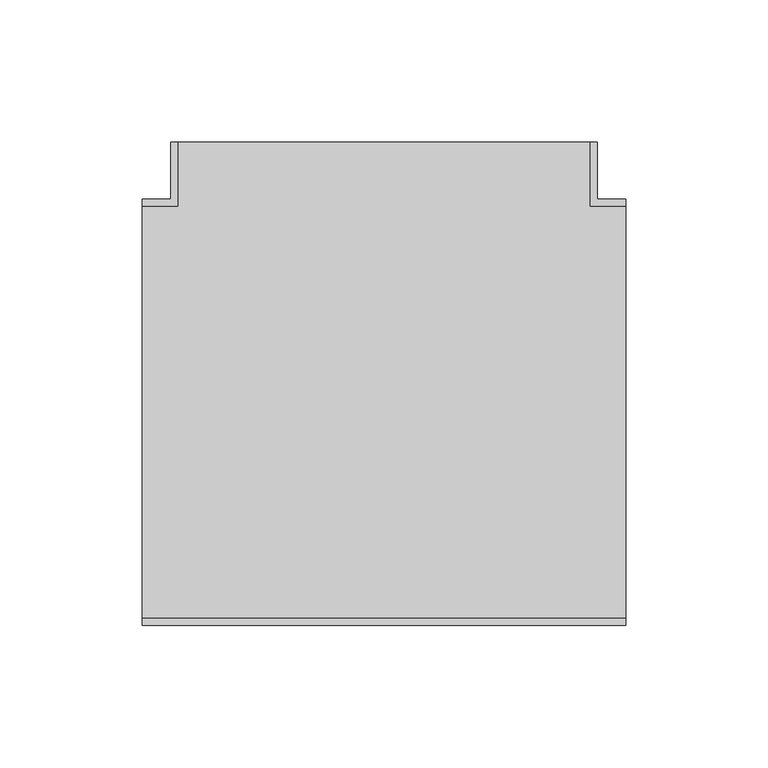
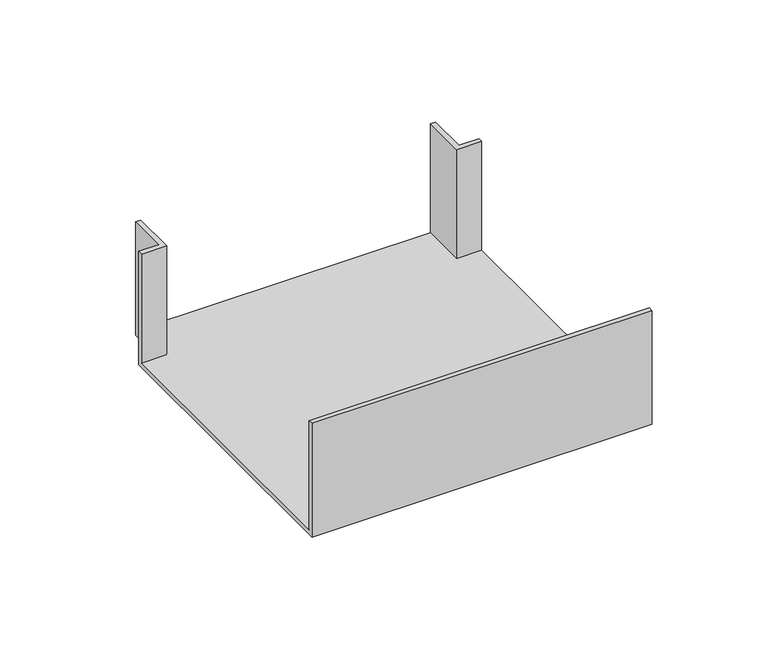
"""IFC4 building model written with IfcOpenShell, lengths in millimetres: cable carrier fitting geometry, КНС_ТройникNTAN_ILC_DKC : Тройник/отвод."""

from ifc_helpers import new_model, si_unit, origin, place, context, project, spatial, faceted_brep, source, transform, mapped, element, save


def cable_carrier_fitting_65dc1eb4(model_context):
    return source(origin(), model_context, "Body", "Brep", [
        faceted_brep([(85.0, -72.5, -27.5), (85.0, 72.5, -27.5), (72.5, 72.5, -27.5), (72.5, 95.0, -27.5), (-72.5, 95.0, -27.5), (-72.5, 72.5, -27.5), (-85.0, 72.5, -27.5), (-85.0, -72.5, -27.5), (85.0, -75.0, -30.0), (-85.0, -75.0, -30.0), (-85.0, 75.0, -30.0), (-75.0, 75.0, -30.0), (-75.0, 95.0, -30.0), (75.0, 95.0, -30.0), (75.0, 75.0, -30.0), (85.0, 75.0, -30.0), (85.0, 75.0, 30.0), (85.0, 72.5, 30.0), (85.0, -72.5, 30.0), (85.0, -75.0, 30.0), (75.0, 75.0, 30.0), (75.0, 95.0, 30.0), (-75.0, 95.0, 30.0), (-72.5, 95.0, 30.0), (72.5, 95.0, 30.0), (-75.0, 75.0, 30.0), (-85.0, 75.0, 30.0), (-85.0, -75.0, 30.0), (-85.0, -72.5, 30.0), (-85.0, 72.5, 30.0), (72.5, 72.5, 30.0), (-72.5, 72.5, 30.0)], [[[0, 1, 2, 3, 4, 5, 6, 7]], [[8, 9, 10, 11, 12, 13, 14, 15]], [[8, 15, 16, 17, 1, 0, 18, 19]], [[16, 15, 14, 20]], [[20, 14, 13, 21]], [[21, 13, 12, 22, 23, 4, 3, 24]], [[22, 12, 11, 25]], [[25, 11, 10, 26]], [[26, 10, 9, 27, 28, 7, 6, 29]], [[27, 9, 8, 19]], [[20, 21, 24, 30, 17, 16]], [[25, 26, 29, 31, 23, 22]], [[27, 19, 18, 28]], [[31, 29, 6, 5]], [[23, 31, 5, 4]], [[30, 24, 3, 2]], [[17, 30, 2, 1]], [[28, 18, 0, 7]]]),
    ])


if __name__ == "__main__":
    model = new_model("IFC4")
    model_context = context("Model", 3, world=origin())
    ifc_project = project(units=[si_unit("LENGTHUNIT", "METRE", prefix="MILLI")], contexts=[model_context])
    site = spatial("IfcSite", under=ifc_project)
    building = spatial("IfcBuilding", under=site)
    placement = place(None, origin())
    cable_carrier_fitting_shape = cable_carrier_fitting_65dc1eb4(model_context)
    element("IfcCableCarrierFitting", 1, ObjectType="КНС_ТройникNTAN_ILC_DKC : Тройник/отвод", at=placement, inside=building, context=model_context, shape_type="MappedRepresentation", body=[
        mapped(cable_carrier_fitting_shape, transform((0.0, 0.0, 0.0), x_axis=(1.0, 0.0, 0.0), y_axis=(0.0, 1.0, 0.0), z_axis=(0.0, 0.0, 1.0))),
    ])
    save(model, "model.ifc")
